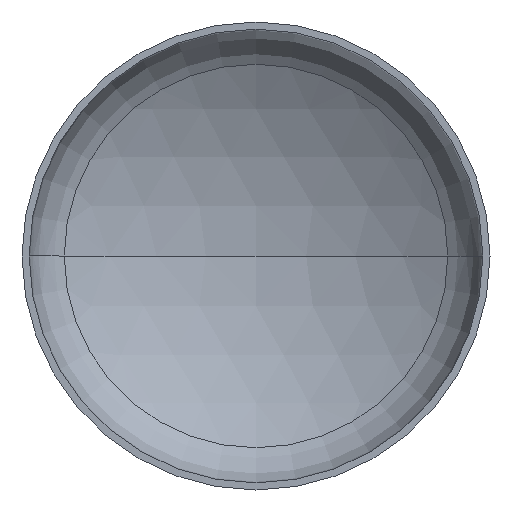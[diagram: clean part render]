
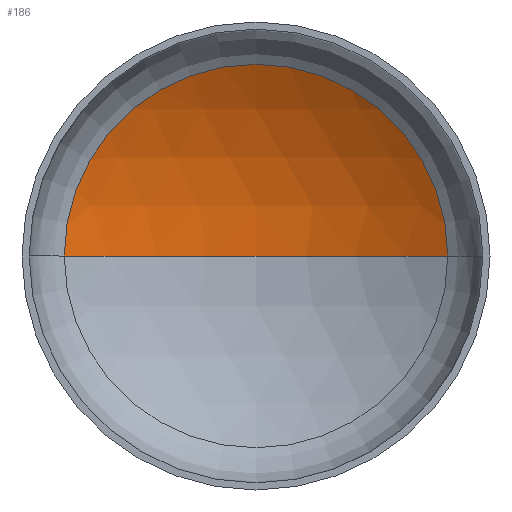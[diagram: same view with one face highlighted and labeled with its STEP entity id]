
A CAD part, front view. The second image highlights one B-rep face of the part: STEP entity #186.
In plain terms, the highlighted spherical face has radius 2240 mm.
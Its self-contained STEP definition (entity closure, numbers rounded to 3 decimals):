
#13 = ORIENTED_EDGE ( 'NONE', *, *, #321, .T. ) ;
#15 = VERTEX_POINT ( 'NONE', #315 ) ;
#21 = VERTEX_POINT ( 'NONE', #309 ) ;
#29 = AXIS2_PLACEMENT_3D ( 'NONE', #303, #169, #336 ) ;
#31 = AXIS2_PLACEMENT_3D ( 'NONE', #356, #205, #376 ) ;
#34 = AXIS2_PLACEMENT_3D ( 'NONE', #129, #300, #168 ) ;
#41 = ORIENTED_EDGE ( 'NONE', *, *, #340, .F. ) ;
#68 = AXIS2_PLACEMENT_3D ( 'NONE', #182, #108, #371 ) ;
#79 = VERTEX_POINT ( 'NONE', #237 ) ;
#93 = SPHERICAL_SURFACE ( 'NONE', #68, 2240. ) ;
#108 = DIRECTION ( 'NONE',  ( 0., 0., -1. ) ) ;
#111 = EDGE_LOOP ( 'NONE', ( #41, #160, #13 ) ) ;
#129 = CARTESIAN_POINT ( 'NONE',  ( 0., 499.324, 0. ) ) ;
#160 = ORIENTED_EDGE ( 'NONE', *, *, #326, .T. ) ;
#168 = DIRECTION ( 'NONE',  ( 1., 0., 0. ) ) ;
#169 = DIRECTION ( 'NONE',  ( 0., 0., 1. ) ) ;
#170 = CIRCLE ( 'NONE', #34, 1147.227 ) ;
#182 = CARTESIAN_POINT ( 'NONE',  ( 0., -1424.597, 0. ) ) ;
#186 = ADVANCED_FACE ( 'NONE', ( #314 ), #93, .F. ) ;
#205 = DIRECTION ( 'NONE',  ( 0., 0., -1. ) ) ;
#237 = CARTESIAN_POINT ( 'NONE',  ( -1147.227, 499.324, 0. ) ) ;
#283 = CIRCLE ( 'NONE', #31, 2240. ) ;
#300 = DIRECTION ( 'NONE',  ( 0., -1., 0. ) ) ;
#303 = CARTESIAN_POINT ( 'NONE',  ( 0., -1424.597, 0. ) ) ;
#309 = CARTESIAN_POINT ( 'NONE',  ( 0., 815.403, 0. ) ) ;
#314 = FACE_OUTER_BOUND ( 'NONE', #111, .T. ) ;
#315 = CARTESIAN_POINT ( 'NONE',  ( 1147.227, 499.324, 0. ) ) ;
#321 = EDGE_CURVE ( 'NONE', #15, #79, #170, .T. ) ;
#326 = EDGE_CURVE ( 'NONE', #21, #15, #283, .T. ) ;
#336 = DIRECTION ( 'NONE',  ( 1., 0., 0. ) ) ;
#340 = EDGE_CURVE ( 'NONE', #21, #79, #402, .T. ) ;
#356 = CARTESIAN_POINT ( 'NONE',  ( 0., -1424.597, 0. ) ) ;
#371 = DIRECTION ( 'NONE',  ( -1., 0., 0. ) ) ;
#376 = DIRECTION ( 'NONE',  ( -1., 0., 0. ) ) ;
#402 = CIRCLE ( 'NONE', #29, 2240. ) ;
